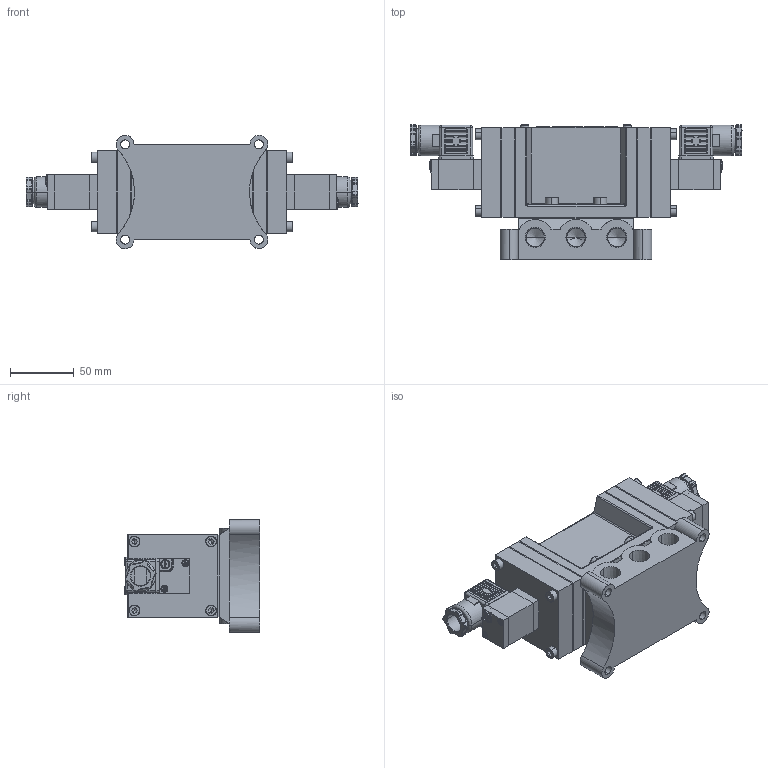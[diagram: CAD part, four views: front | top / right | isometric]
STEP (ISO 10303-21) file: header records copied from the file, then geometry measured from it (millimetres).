
FILE_DESCRIPTION (( 'STEP AP203' ), '1' );
FILE_NAME ('PMD(E)3410#-03-#C#.STEP', '2016-03-09T05:46:06', ( 'Sam Lin' ), ( '' ), 'SwSTEP 2.0', 'SolidWorks 2013', '' );
FILE_SCHEMA (( 'CONFIG_CONTROL_DESIGN' ));
Length unit declared in the file: metre
Products named in the file (18): PM06-C1; PMS2410-4; PM06-C4; ISO 4762 M5 x 20; PM06-C6-M3; PM06-C3-M4; PM06-C5; ISO 4762 M6 x 20; PMS2306-6(C); PM10-MARK-2410; PMD3410-1; PMS2410-6; PMS2410-1; PMD(E)3410#-03-#C#; PMS2410-7; PMS2410-2; PMS2410-8; PMS2410-3
Assembly tree (43 placements, depth 2):
  PMD(E)3410#-03-#C#
    PMS2410-1
    PMS2410-2
    PMS2410-3  x4
    PMS2410-4  x2
    ISO 4762 M5 x 20  x8
    PM06-C3-M4  x4
    ISO 4762 M6 x 20  x4
    PM10-MARK-2410
    PMS2410-6
    PMS2410-7
    PMS2410-8  x2
    PM06-C1  x2
    PM06-C4  x2
    PM06-C6-M3  x4
    PM06-C5  x2
    PMS2306-6(C)  x2
    PMD3410-1  x2
Bounding box: 260 x 106.35 x 88.61 mm (x, y, z)
Volume: 878223.7 mm3; surface area: 221963.6 mm2
Topology: 49 solids, 49 shells, 1692 faces, 4235 edges, 2453 vertices
Faces by surface type: plane 654, cylinder 500, bspline 400, cone 138
Entity records: 34302 total; most frequent: CARTESIAN_POINT 14554, ORIENTED_EDGE 3662, DIRECTION 3348, EDGE_CURVE 1831, AXIS2_PLACEMENT_3D 1237, VERTEX_POINT 1155, EDGE_LOOP 898, VECTOR 874
